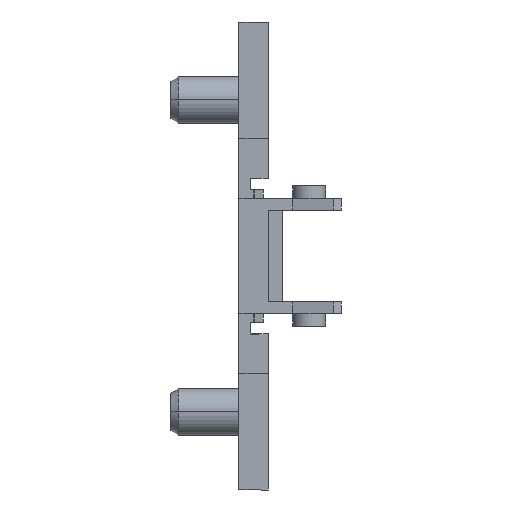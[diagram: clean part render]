
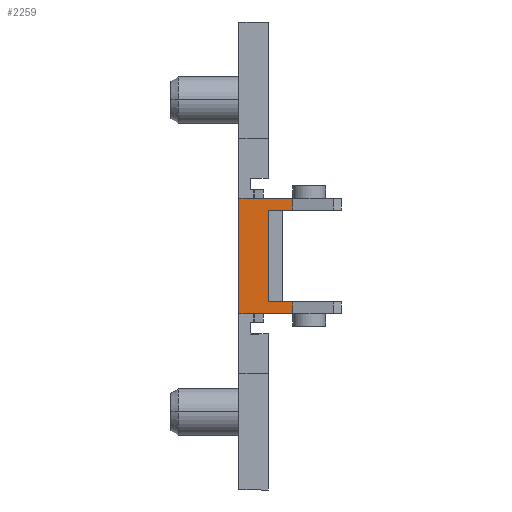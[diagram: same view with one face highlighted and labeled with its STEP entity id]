
A CAD part, front view. The second image highlights one B-rep face of the part: STEP entity #2259.
In plain terms, the highlighted planar face has unit normal (0, -1, 0).
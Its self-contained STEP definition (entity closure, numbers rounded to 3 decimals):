
#39 = VERTEX_POINT ( 'NONE', #663 ) ;
#173 = VERTEX_POINT ( 'NONE', #1347 ) ;
#215 = VERTEX_POINT ( 'NONE', #1384 ) ;
#235 = VERTEX_POINT ( 'NONE', #1400 ) ;
#244 = VERTEX_POINT ( 'NONE', #1409 ) ;
#246 = VERTEX_POINT ( 'NONE', #1411 ) ;
#249 = VERTEX_POINT ( 'NONE', #1414 ) ;
#266 = VERTEX_POINT ( 'NONE', #1431 ) ;
#341 = ORIENTED_EDGE ( 'NONE', *, *, #983, .T. ) ;
#384 = ORIENTED_EDGE ( 'NONE', *, *, #1100, .T. ) ;
#413 = ORIENTED_EDGE ( 'NONE', *, *, #2141, .F. ) ;
#426 = ORIENTED_EDGE ( 'NONE', *, *, #2043, .F. ) ;
#448 = ORIENTED_EDGE ( 'NONE', *, *, #2175, .T. ) ;
#467 = ORIENTED_EDGE ( 'NONE', *, *, #935, .F. ) ;
#538 = ORIENTED_EDGE ( 'NONE', *, *, #2034, .F. ) ;
#572 = ORIENTED_EDGE ( 'NONE', *, *, #2110, .T. ) ;
#663 = CARTESIAN_POINT ( 'NONE',  ( 5.523, -16.55, -5.9 ) ) ;
#836 = AXIS2_PLACEMENT_3D ( 'NONE', #4490, #4499, #4500 ) ;
#935 = EDGE_CURVE ( 'NONE', #246, #173, #2911, .T. ) ;
#983 = EDGE_CURVE ( 'NONE', #249, #39, #2948, .T. ) ;
#1100 = EDGE_CURVE ( 'NONE', #246, #266, #3035, .T. ) ;
#1215 = EDGE_LOOP ( 'NONE', ( #467, #384, #538, #572, #448, #341, #426, #413 ) ) ;
#1347 = CARTESIAN_POINT ( 'NONE',  ( 3., -16.55, -4.7 ) ) ;
#1384 = CARTESIAN_POINT ( 'NONE',  ( 5.523, -16.55, -4.7 ) ) ;
#1400 = CARTESIAN_POINT ( 'NONE',  ( 0., -16.55, 5.9 ) ) ;
#1409 = CARTESIAN_POINT ( 'NONE',  ( 5.523, -16.55, 5.9 ) ) ;
#1411 = CARTESIAN_POINT ( 'NONE',  ( 3., -16.55, 4.7 ) ) ;
#1414 = CARTESIAN_POINT ( 'NONE',  ( 0., -16.55, -5.9 ) ) ;
#1431 = CARTESIAN_POINT ( 'NONE',  ( 5.523, -16.55, 4.7 ) ) ;
#1696 = CARTESIAN_POINT ( 'NONE',  ( 3., -16.55, -5.9 ) ) ;
#1697 = DIRECTION ( 'NONE',  ( 0., 0., -1. ) ) ;
#1752 = CARTESIAN_POINT ( 'NONE',  ( 1.5, -16.55, -5.9 ) ) ;
#1756 = DIRECTION ( 'NONE',  ( 1., 0., 0. ) ) ;
#1880 = CARTESIAN_POINT ( 'NONE',  ( 10.5, -16.55, 4.7 ) ) ;
#1881 = DIRECTION ( 'NONE',  ( 1., 0., 0. ) ) ;
#2034 = EDGE_CURVE ( 'NONE', #244, #266, #3268, .T. ) ;
#2043 = EDGE_CURVE ( 'NONE', #215, #39, #3283, .T. ) ;
#2110 = EDGE_CURVE ( 'NONE', #244, #235, #3409, .T. ) ;
#2141 = EDGE_CURVE ( 'NONE', #173, #215, #3460, .T. ) ;
#2175 = EDGE_CURVE ( 'NONE', #235, #249, #3476, .T. ) ;
#2202 = FACE_OUTER_BOUND ( 'NONE', #1215, .T. ) ;
#2259 = ADVANCED_FACE ( 'NONE', ( #2202 ), #4487, .T. ) ;
#2911 = LINE ( 'NONE', #1696, #2912 ) ;
#2912 = VECTOR ( 'NONE', #1697, 1000. ) ;
#2948 = LINE ( 'NONE', #1752, #2951 ) ;
#2951 = VECTOR ( 'NONE', #1756, 1000. ) ;
#3035 = LINE ( 'NONE', #1880, #3036 ) ;
#3036 = VECTOR ( 'NONE', #1881, 1000. ) ;
#3268 = LINE ( 'NONE', #4023, #3273 ) ;
#3273 = VECTOR ( 'NONE', #4024, 1000. ) ;
#3283 = LINE ( 'NONE', #4038, #3291 ) ;
#3291 = VECTOR ( 'NONE', #4042, 1000. ) ;
#3409 = LINE ( 'NONE', #4205, #3410 ) ;
#3410 = VECTOR ( 'NONE', #4206, 1000. ) ;
#3460 = LINE ( 'NONE', #4282, #3461 ) ;
#3461 = VECTOR ( 'NONE', #4283, 1000. ) ;
#3476 = LINE ( 'NONE', #4360, #3486 ) ;
#3486 = VECTOR ( 'NONE', #4361, 1000. ) ;
#4023 = CARTESIAN_POINT ( 'NONE',  ( 5.523, -16.55, 67.733 ) ) ;
#4024 = DIRECTION ( 'NONE',  ( 0., 0., -1. ) ) ;
#4038 = CARTESIAN_POINT ( 'NONE',  ( 5.523, -16.55, 67.733 ) ) ;
#4042 = DIRECTION ( 'NONE',  ( 0., 0., -1. ) ) ;
#4205 = CARTESIAN_POINT ( 'NONE',  ( 10.5, -16.55, 5.9 ) ) ;
#4206 = DIRECTION ( 'NONE',  ( -1., 0., 0. ) ) ;
#4282 = CARTESIAN_POINT ( 'NONE',  ( 10.5, -16.55, -4.7 ) ) ;
#4283 = DIRECTION ( 'NONE',  ( 1., 0., 0. ) ) ;
#4360 = CARTESIAN_POINT ( 'NONE',  ( 0., -16.55, 15.37 ) ) ;
#4361 = DIRECTION ( 'NONE',  ( 0., 0., -1. ) ) ;
#4487 = PLANE ( 'NONE',  #836 ) ;
#4490 = CARTESIAN_POINT ( 'NONE',  ( 10.5, -16.55, -5.9 ) ) ;
#4499 = DIRECTION ( 'NONE',  ( 0., -1., 0. ) ) ;
#4500 = DIRECTION ( 'NONE',  ( -1., 0., 0. ) ) ;
